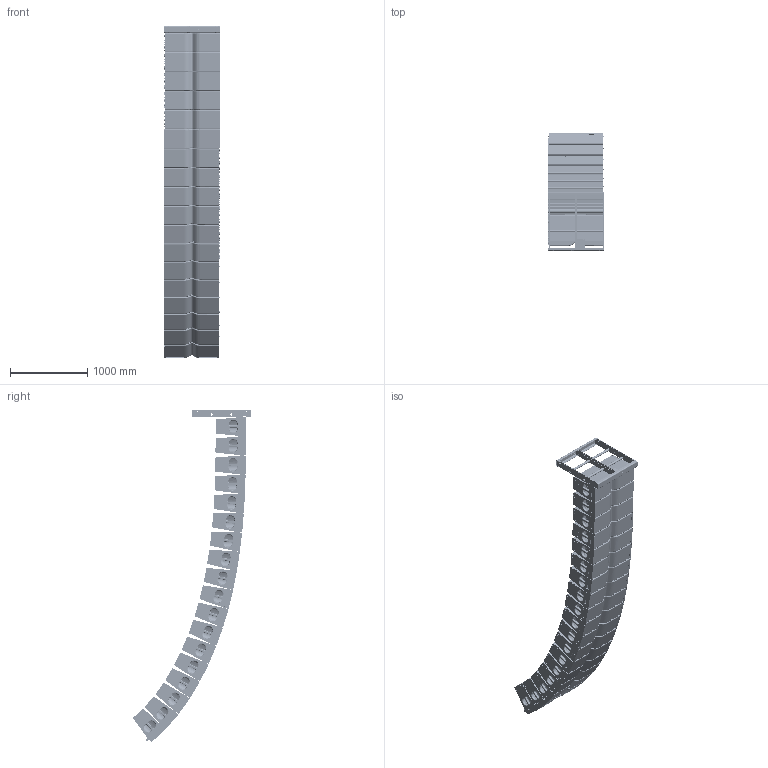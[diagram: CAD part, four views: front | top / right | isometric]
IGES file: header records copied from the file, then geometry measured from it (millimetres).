
Global section: file name: LA28 18 Box ARRAY v6; native system: unknown; preprocessor: unknown; author: unknown; organization: unknown; date: 20230122.002444; units: inch
Bounding box: 729.3 x 1523.89 x 4288.2 mm (x, y, z)
Volume: 1038501995.3 mm3; surface area: 23867824.9 mm2
Topology: 33 solids, 33 shells, 8129 faces, 21419 edges, 14388 vertices
Faces by surface type: bspline 8129
